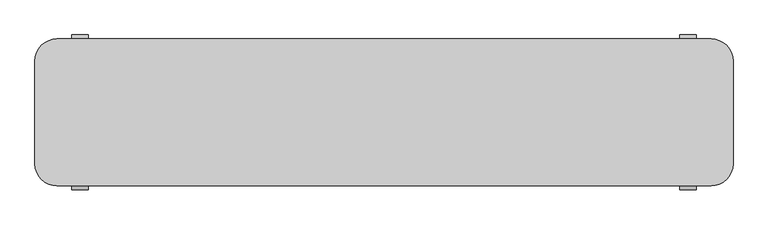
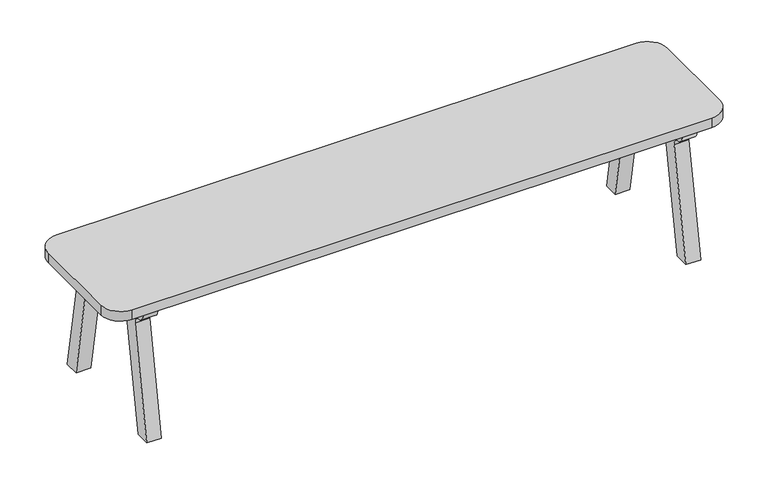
"""IFC4 building model written with IfcOpenShell, lengths in millimetres: furniture geometry, Furniture-Chair-LyndonDesign-Agent_AGE_23 : Furniture-Chair-LyndonDesign-Agent_AGE_23."""

from ifc_helpers import new_model, si_unit, point, frame, frame_2d, origin, place, context, project, spatial, polyline, circle_curve, trimmed, segment, composite_curve, outline, extrude, source, transform, mapped, element, save


def furniture_8639195a(model_context):
    return source(origin(), model_context, "Body", "SweptSolid", [
        extrude(outline(composite_curve([segment(trimmed(circle_curve(frame_2d((165.6735065, 401.5998686)), 25.3572907), [point((190.0, 408.7562579))], [point((168.1510827, 376.3639059))], False, "CARTESIAN"), True, "CONTINUOUS"), segment(trimmed(circle_curve(frame_2d((170.282248, 354.6563968)), 21.8118734), [point((168.1510827, 376.3639059))], [point((148.6060058, 352.2277461))], True, "CARTESIAN"), True, "CONTINUOUS"), segment(polyline([(148.6060058, 352.2277461), (210.7132608, 0.0), (165.0190633, 0.0), (101.7606555, 358.7562579)]), True, "CONTINUOUS"), segment(trimmed(circle_curve(frame_2d((85.0189237, 355.8042389)), 17.0), [point((101.7606555, 358.7562579))], [point((85.0189237, 372.8042389))], True, "CARTESIAN"), True, "CONTINUOUS"), segment(polyline([(85.0189237, 372.8042389), (-85.0189237, 372.8042389)]), True, "CONTINUOUS"), segment(trimmed(circle_curve(frame_2d((-85.0189237, 355.8042389)), 17.0), [point((-85.0189237, 372.8042389))], [point((-101.7606555, 358.7562579))], True, "CARTESIAN"), True, "CONTINUOUS"), segment(polyline([(-101.7606555, 358.7562579), (-165.0190633, 0.0), (-210.7132608, 0.0), (-148.6060058, 352.2277461)]), True, "CONTINUOUS"), segment(trimmed(circle_curve(frame_2d((-170.282248, 354.6563968)), 21.8118734), [point((-148.6060058, 352.2277461))], [point((-168.1510827, 376.3639059))], True, "CARTESIAN"), True, "CONTINUOUS"), segment(trimmed(circle_curve(frame_2d((-165.6735065, 401.5998686)), 25.3572907), [point((-168.1510827, 376.3639059))], [point((-190.0, 408.7562579))], False, "CARTESIAN"), True, "CONTINUOUS"), segment(polyline([(-190.0, 408.7562579), (190.0, 408.7562579)]), True, "CONTINUOUS")], self_intersect=False)), frame((804.9999833, 0.0, 0.0), z_axis=(1.0, 0.0, 0.0), x_axis=(0.0, 1.0, 0.0)), (0.0, 0.0, 1.0), 45.0),
        extrude(outline(composite_curve([segment(trimmed(circle_curve(frame_2d((165.6735065, 401.5998686)), 25.3572907), [point((190.0, 408.7562579))], [point((168.1510827, 376.3639059))], False, "CARTESIAN"), True, "CONTINUOUS"), segment(trimmed(circle_curve(frame_2d((170.282248, 354.6563968)), 21.8118734), [point((168.1510827, 376.3639059))], [point((148.6060058, 352.2277461))], True, "CARTESIAN"), True, "CONTINUOUS"), segment(polyline([(148.6060058, 352.2277461), (210.7132608, 0.0), (165.0190633, 0.0), (101.7606555, 358.7562579)]), True, "CONTINUOUS"), segment(trimmed(circle_curve(frame_2d((85.0189237, 355.8042389)), 17.0), [point((101.7606555, 358.7562579))], [point((85.0189237, 372.8042389))], True, "CARTESIAN"), True, "CONTINUOUS"), segment(polyline([(85.0189237, 372.8042389), (-85.0189237, 372.8042389)]), True, "CONTINUOUS"), segment(trimmed(circle_curve(frame_2d((-85.0189237, 355.8042389)), 17.0), [point((-85.0189237, 372.8042389))], [point((-101.7606555, 358.7562579))], True, "CARTESIAN"), True, "CONTINUOUS"), segment(polyline([(-101.7606555, 358.7562579), (-165.0190633, 0.0), (-210.7132608, 0.0), (-148.6060058, 352.2277461)]), True, "CONTINUOUS"), segment(trimmed(circle_curve(frame_2d((-170.282248, 354.6563968)), 21.8118734), [point((-148.6060058, 352.2277461))], [point((-168.1510827, 376.3639059))], True, "CARTESIAN"), True, "CONTINUOUS"), segment(trimmed(circle_curve(frame_2d((-165.6735065, 401.5998686)), 25.3572907), [point((-168.1510827, 376.3639059))], [point((-190.0, 408.7562579))], False, "CARTESIAN"), True, "CONTINUOUS"), segment(polyline([(-190.0, 408.7562579), (190.0, 408.7562579)]), True, "CONTINUOUS")], self_intersect=False)), frame((-849.9999833, 0.0, 0.0), z_axis=(1.0, 0.0, 0.0), x_axis=(0.0, 1.0, 0.0)), (0.0, 0.0, 1.0), 45.0),
        extrude(outline(polyline([(-133.353636, 373.5340284), (-127.1430065, 408.7562579), (-102.7727679, 408.7562579), (-109.718695, 369.3639476), (-133.353636, 373.5340284)])), frame((-804.9999833, 0.0, 0.0), z_axis=(1.0, 0.0, 0.0), x_axis=(0.0, 1.0, 0.0)), (0.0, 0.0, 1.0), 1609.9999666),
        extrude(outline(polyline([(133.353636, 373.5340284), (109.718695, 369.3639476), (102.7727679, 408.7562579), (127.1430065, 408.7562579), (133.353636, 373.5340284)])), frame((-804.9999833, 0.0, 0.0), z_axis=(1.0, 0.0, 0.0), x_axis=(0.0, 1.0, 0.0)), (0.0, 0.0, 1.0), 1609.9999666),
        extrude(outline(composite_curve([segment(polyline([(-890.0, 200.0), (890.0, 200.0)]), True, "CONTINUOUS"), segment(trimmed(circle_curve(frame_2d((890.0, 140.0)), 60.0), [point((890.0, 200.0))], [point((950.0, 140.0))], False, "CARTESIAN"), True, "CONTINUOUS"), segment(polyline([(950.0, 140.0), (950.0, -140.0)]), True, "CONTINUOUS"), segment(trimmed(circle_curve(frame_2d((890.0, -140.0)), 60.0), [point((950.0, -140.0))], [point((890.0, -200.0))], False, "CARTESIAN"), True, "CONTINUOUS"), segment(polyline([(890.0, -200.0), (-890.0, -200.0)]), True, "CONTINUOUS"), segment(trimmed(circle_curve(frame_2d((-890.0, -140.0)), 60.0), [point((-890.0, -200.0))], [point((-950.0, -140.0))], False, "CARTESIAN"), True, "CONTINUOUS"), segment(polyline([(-950.0, -140.0), (-950.0, 140.0)]), True, "CONTINUOUS"), segment(trimmed(circle_curve(frame_2d((-890.0, 140.0)), 60.0), [point((-950.0, 140.0))], [point((-890.0, 200.0))], False, "CARTESIAN"), True, "CONTINUOUS")], self_intersect=False)), frame((0.0, 0.0, 408.7562579), z_axis=(0.0, 0.0, 1.0), x_axis=(1.0, 0.0, 0.0)), (0.0, 0.0, 1.0), 31.2437421),
    ])


if __name__ == "__main__":
    model = new_model("IFC4")
    model_context = context("Model", 3, world=origin())
    ifc_project = project(units=[si_unit("LENGTHUNIT", "METRE", prefix="MILLI")], contexts=[model_context])
    site = spatial("IfcSite", under=ifc_project)
    building = spatial("IfcBuilding", under=site)
    placement = place(None, origin())
    furniture_shape = furniture_8639195a(model_context)
    element("IfcFurniture", 1, ObjectType="Furniture-Chair-LyndonDesign-Agent_AGE_23 : Furniture-Chair-LyndonDesign-Agent_AGE_23", at=placement, inside=building, context=model_context, shape_type="MappedRepresentation", body=[
        mapped(furniture_shape, transform((0.0, 0.0, 0.0), x_axis=(1.0, 0.0, 0.0), y_axis=(0.0, 1.0, 0.0), z_axis=(0.0, 0.0, 1.0))),
    ])
    save(model, "model.ifc")
